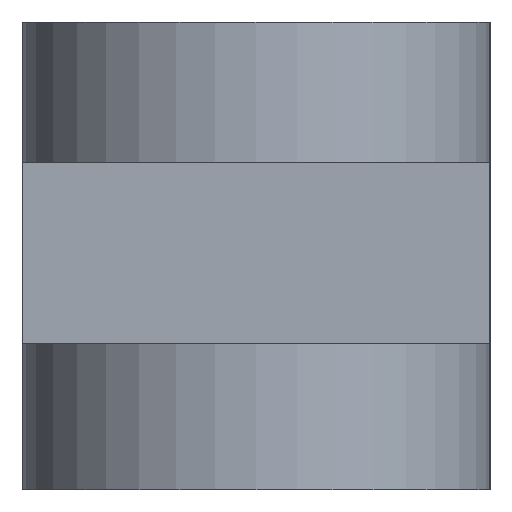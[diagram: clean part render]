
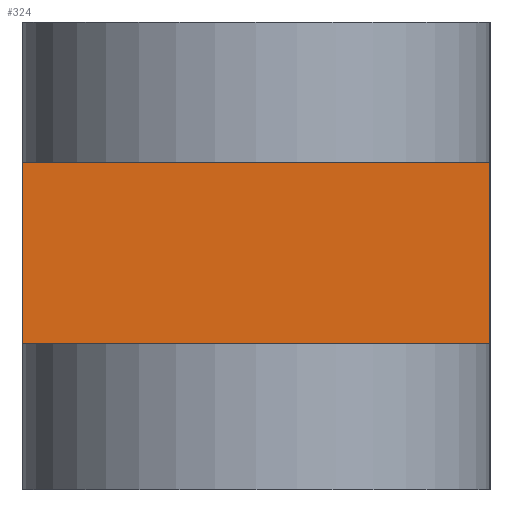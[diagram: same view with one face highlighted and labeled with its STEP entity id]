
A CAD part, left-side view. The second image highlights one B-rep face of the part: STEP entity #324.
In plain terms, the highlighted planar face has unit normal (-1, 0, 0).
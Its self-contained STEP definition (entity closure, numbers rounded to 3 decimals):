
#66=VERTEX_POINT('',#472);
#67=VERTEX_POINT('',#474);
#73=VERTEX_POINT('',#490);
#77=VERTEX_POINT('',#500);
#97=VECTOR('',#390,1.);
#102=VECTOR('',#405,1.);
#103=VECTOR('',#413,1.);
#105=VECTOR('',#416,1.);
#125=LINE('',#473,#97);
#130=LINE('',#491,#102);
#131=LINE('',#499,#103);
#133=LINE('',#503,#105);
#157=EDGE_CURVE('',#66,#67,#125,.T.);
#166=EDGE_CURVE('',#73,#66,#130,.T.);
#170=EDGE_CURVE('',#67,#77,#131,.T.);
#172=EDGE_CURVE('',#77,#73,#133,.T.);
#229=ORIENTED_EDGE('',*,*,#166,.F.);
#230=ORIENTED_EDGE('',*,*,#172,.F.);
#231=ORIENTED_EDGE('',*,*,#170,.F.);
#232=ORIENTED_EDGE('',*,*,#157,.F.);
#278=EDGE_LOOP('',(#229,#230,#231,#232));
#304=FACE_BOUND('',#278,.T.);
#324=ADVANCED_FACE('',(#304),#522,.F.);
#351=AXIS2_PLACEMENT_3D('',#502,#415,$);
#390=DIRECTION('',(0.,0.,-1.));
#405=DIRECTION('',(0.,-1.,0.));
#413=DIRECTION('',(0.,1.,0.));
#415=DIRECTION('',(1.,0.,0.));
#416=DIRECTION('',(0.,0.,1.));
#472=CARTESIAN_POINT('',(-17.,-4.,5.6));
#473=CARTESIAN_POINT('',(-17.,-4.,1.25));
#474=CARTESIAN_POINT('',(-17.,-4.,2.5));
#490=CARTESIAN_POINT('',(-17.,4.,5.6));
#491=CARTESIAN_POINT('',(-17.,-4.,5.6));
#499=CARTESIAN_POINT('',(-17.,-4.,2.5));
#500=CARTESIAN_POINT('',(-17.,4.,2.5));
#502=CARTESIAN_POINT('',(-17.,0.,2.5));
#503=CARTESIAN_POINT('',(-17.,4.,1.25));
#522=PLANE('',#351);
